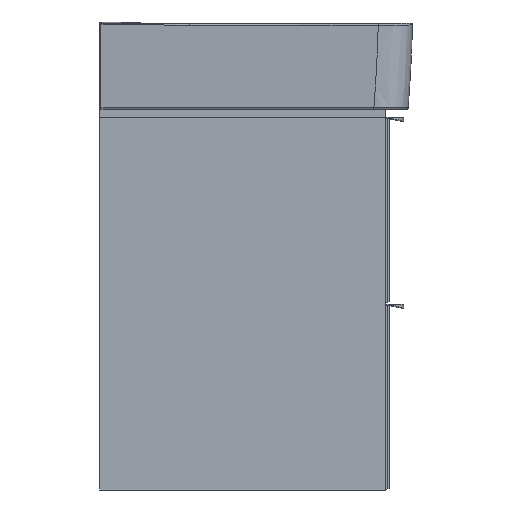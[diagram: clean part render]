
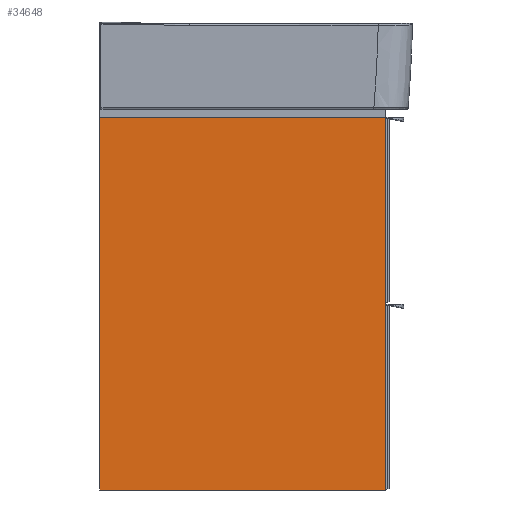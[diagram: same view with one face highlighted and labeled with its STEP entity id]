
A CAD part, left-side view. The second image highlights one B-rep face of the part: STEP entity #34648.
In plain terms, the highlighted planar face has unit normal (-1, 0, 0).
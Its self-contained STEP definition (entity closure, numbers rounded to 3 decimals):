
#5957=FACE_OUTER_BOUND('',#7839,.T.);
#7839=EDGE_LOOP('',(#30294,#30295,#30296,#30297));
#10856=LINE('',#55685,#13850);
#10861=LINE('',#55695,#13855);
#10864=LINE('',#55700,#13858);
#10865=LINE('',#55702,#13859);
#13850=VECTOR('',#44866,10.);
#13855=VECTOR('',#44875,10.);
#13858=VECTOR('',#44880,10.);
#13859=VECTOR('',#44883,10.);
#16420=VERTEX_POINT('',#55682);
#16421=VERTEX_POINT('',#55684);
#16424=VERTEX_POINT('',#55694);
#16425=VERTEX_POINT('',#55698);
#21772=EDGE_CURVE('',#16420,#16421,#10856,.T.);
#21777=EDGE_CURVE('',#16424,#16421,#10861,.T.);
#21780=EDGE_CURVE('',#16420,#16425,#10864,.T.);
#21781=EDGE_CURVE('',#16425,#16424,#10865,.T.);
#30294=ORIENTED_EDGE('',*,*,#21772,.F.);
#30295=ORIENTED_EDGE('',*,*,#21780,.T.);
#30296=ORIENTED_EDGE('',*,*,#21781,.T.);
#30297=ORIENTED_EDGE('',*,*,#21777,.T.);
#33389=PLANE('',#37720);
#34648=ADVANCED_FACE('',(#5957),#33389,.T.);
#37720=AXIS2_PLACEMENT_3D('',#55703,#44884,#44885);
#44866=DIRECTION('',(0.,0.,-1.));
#44875=DIRECTION('',(0.,-1.,0.));
#44880=DIRECTION('',(0.,1.,0.));
#44883=DIRECTION('',(0.,0.,-1.));
#44884=DIRECTION('center_axis',(-1.,0.,0.));
#44885=DIRECTION('ref_axis',(0.,0.,1.));
#55682=CARTESIAN_POINT('',(1493.637,-3703.259,-90.948));
#55684=CARTESIAN_POINT('',(1493.637,-3703.259,-590.948));
#55685=CARTESIAN_POINT('',(1493.637,-3703.259,-90.948));
#55694=CARTESIAN_POINT('',(1493.637,-3319.259,-590.948));
#55695=CARTESIAN_POINT('',(1493.637,-3319.259,-590.948));
#55698=CARTESIAN_POINT('',(1493.637,-3319.259,-90.948));
#55700=CARTESIAN_POINT('',(1493.637,-3703.259,-90.948));
#55702=CARTESIAN_POINT('',(1493.637,-3319.259,-90.948));
#55703=CARTESIAN_POINT('Origin',(1493.637,-3703.259,-340.948));
